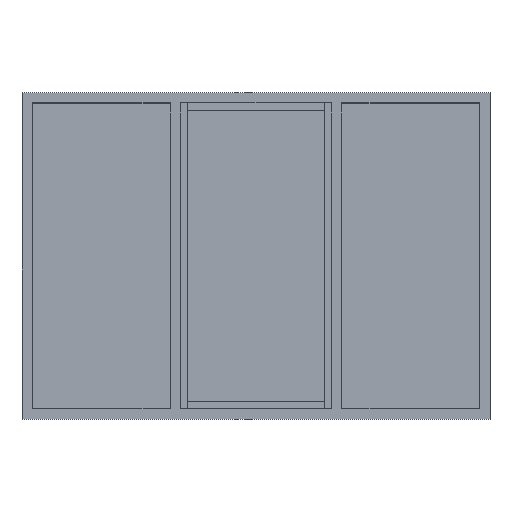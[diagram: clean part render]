
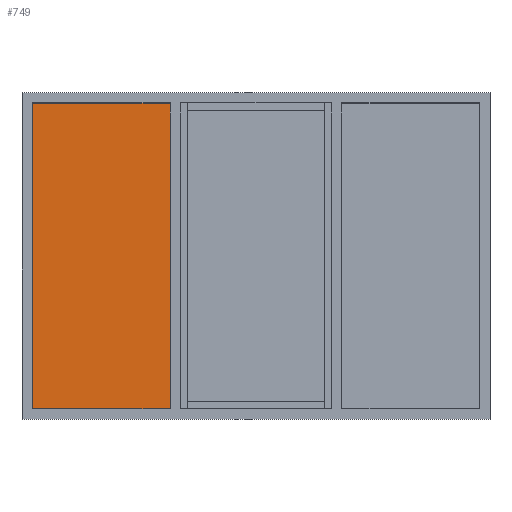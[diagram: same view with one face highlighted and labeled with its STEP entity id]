
A CAD part, top view. The second image highlights one B-rep face of the part: STEP entity #749.
In plain terms, the highlighted planar face has unit normal (0, 0, 1).
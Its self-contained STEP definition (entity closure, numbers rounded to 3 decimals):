
#22 = ORIENTED_EDGE ( 'NONE', *, *, #513, .F. ) ;
#52 = ORIENTED_EDGE ( 'NONE', *, *, #517, .T. ) ;
#78 = CARTESIAN_POINT ( 'NONE',  ( -323., 15., 4. ) ) ;
#87 = DIRECTION ( 'NONE',  ( 0., 1., 0. ) ) ;
#104 = VERTEX_POINT ( 'NONE', #890 ) ;
#121 = PLANE ( 'NONE',  #467 ) ;
#122 = CARTESIAN_POINT ( 'NONE',  ( -124., 15., 4. ) ) ;
#131 = VERTEX_POINT ( 'NONE', #293 ) ;
#154 = DIRECTION ( 'NONE',  ( -1., 0., 0. ) ) ;
#194 = CARTESIAN_POINT ( 'NONE',  ( -124., -37.202, 4. ) ) ;
#214 = CARTESIAN_POINT ( 'NONE',  ( -323., 0., 4. ) ) ;
#254 = DIRECTION ( 'NONE',  ( 1., 0., 0. ) ) ;
#275 = DIRECTION ( 'NONE',  ( 0., -1., 0. ) ) ;
#293 = CARTESIAN_POINT ( 'NONE',  ( -124., 457., 4. ) ) ;
#302 = DIRECTION ( 'NONE',  ( 0., 0., -1. ) ) ;
#329 = DIRECTION ( 'NONE',  ( 0., 1., 0. ) ) ;
#353 = CARTESIAN_POINT ( 'NONE',  ( 323., 472., 4. ) ) ;
#365 = VERTEX_POINT ( 'NONE', #122 ) ;
#374 = VERTEX_POINT ( 'NONE', #401 ) ;
#401 = CARTESIAN_POINT ( 'NONE',  ( -323., 457., 4. ) ) ;
#404 = CARTESIAN_POINT ( 'NONE',  ( -323., 457., 4. ) ) ;
#467 = AXIS2_PLACEMENT_3D ( 'NONE', #353, #302, #87 ) ;
#513 = EDGE_CURVE ( 'NONE', #374, #131, #781, .T. ) ;
#517 = EDGE_CURVE ( 'NONE', #374, #104, #869, .T. ) ;
#532 = EDGE_CURVE ( 'NONE', #365, #131, #678, .T. ) ;
#541 = EDGE_CURVE ( 'NONE', #365, #104, #689, .T. ) ;
#577 = ORIENTED_EDGE ( 'NONE', *, *, #541, .F. ) ;
#601 = ORIENTED_EDGE ( 'NONE', *, *, #532, .T. ) ;
#639 = EDGE_LOOP ( 'NONE', ( #601, #22, #52, #577 ) ) ;
#665 = FACE_OUTER_BOUND ( 'NONE', #639, .T. ) ;
#677 = VECTOR ( 'NONE', #154, 1000. ) ;
#678 = LINE ( 'NONE', #194, #737 ) ;
#689 = LINE ( 'NONE', #78, #677 ) ;
#737 = VECTOR ( 'NONE', #329, 1000. ) ;
#749 = ADVANCED_FACE ( 'NONE', ( #665 ), #121, .F. ) ;
#781 = LINE ( 'NONE', #404, #792 ) ;
#792 = VECTOR ( 'NONE', #254, 1000. ) ;
#869 = LINE ( 'NONE', #214, #882 ) ;
#882 = VECTOR ( 'NONE', #275, 1000. ) ;
#890 = CARTESIAN_POINT ( 'NONE',  ( -323., 15., 4. ) ) ;
